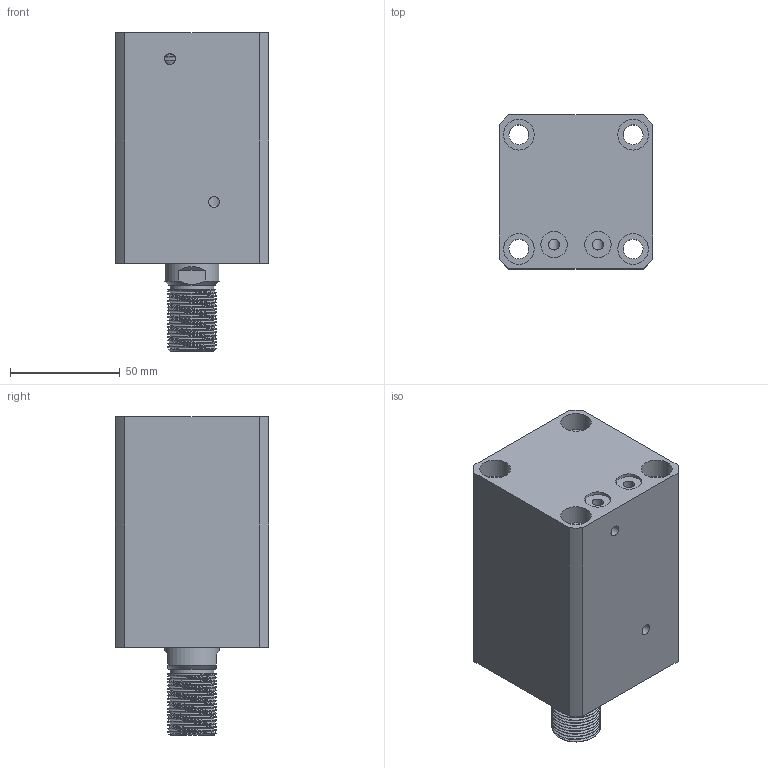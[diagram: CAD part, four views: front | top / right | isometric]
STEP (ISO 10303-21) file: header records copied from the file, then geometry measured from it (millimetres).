
FILE_DESCRIPTION(/* description */ (''),/* implementation_level */ '2;1');
FILE_NAME(/* name */ 'CHTB-sdmb40x50w.stp',/* time_stamp */ '2022-04-29T17:48:05+08:00',/* author */ (''),/* organization */ (''),/* preprocessor_version */ 'ST-DEVELOPER v16.7',/* originating_system */ 'SIEMENS PLM Software NX 12.0',/* authorisation */ '');
FILE_SCHEMA (('AUTOMOTIVE_DESIGN { 1 0 10303 214 3 1 1 1 }'));
Length unit declared in the file: millimetre
Products named in the file (1): CHTB-sdmb40x50w
Bounding box: 70 x 70 x 145 mm (x, y, z)
Volume: 448090.9 mm3; surface area: 91847.7 mm2
Topology: 3 solids, 4 shells, 498 faces, 1415 edges, 972 vertices
Faces by surface type: plane 325, extrusion 107, cylinder 42, torus 11, bspline 8, cone 5
Full cylindrical faces by diameter (mm): 4.2 x2, 5 x5, 9 x4, 12 x2, 14 x8, 20 x1, 25 x2, 29 x1, 34 x2, 40 x4, 45 x1
Entity records: 24772 total; most frequent: CARTESIAN_POINT 9897, ORIENTED_EDGE 2690, DIRECTION 1971, EDGE_CURVE 1345, VECTOR 1017, VERTEX_POINT 954, LINE 910, EDGE_LOOP 613
